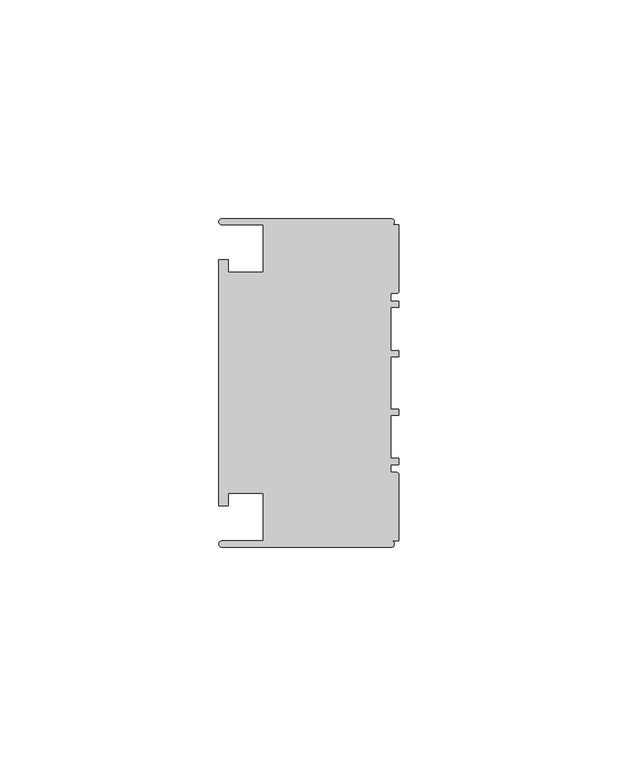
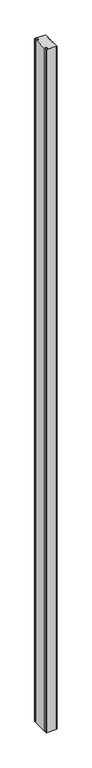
"""IFC4 building model written with IfcOpenShell, lengths in millimetres: member geometry, Прямоугольный импост : 3-AMG-2-Профиль 40Х75 Верх П."""

from ifc_helpers import new_model, si_unit, point, frame, frame_2d, origin, place, context, project, spatial, polyline, circle_curve, trimmed, segment, composite_curve, outline, extrude, source, transform, mapped, element, save


def member_35884c0a(model_context):
    return source(origin(), model_context, "Body", "SweptSolid", [
        extrude(outline(composite_curve([segment(polyline([(-1.7, -37.5), (-40.4, -37.5)]), True, "CONTINUOUS"), segment(trimmed(circle_curve(frame_2d((-40.4, -36.8)), 0.7), [point((-40.4, -37.5))], [point((-40.4, -36.1))], False, "CARTESIAN"), True, "CONTINUOUS"), segment(polyline([(-40.4, -36.1), (-31.0, -36.1), (-31.0, -25.25), (-39.0, -25.25), (-39.0, -28.1), (-41.1, -28.1), (-41.1, 28.1), (-39.0, 28.1), (-39.0, 25.25), (-31.0, 25.25), (-31.0, 36.1), (-40.4, 36.1)]), True, "CONTINUOUS"), segment(trimmed(circle_curve(frame_2d((-40.4, 36.8)), 0.7), [point((-40.4, 36.1))], [point((-40.4, 37.5))], False, "CARTESIAN"), True, "CONTINUOUS"), segment(polyline([(-40.4, 37.5), (-1.7, 37.5)]), True, "CONTINUOUS"), segment(trimmed(circle_curve(frame_2d((-1.7, 36.8)), 0.7), [point((-1.7, 37.5))], [point((-1.7, 36.1))], False, "CARTESIAN"), True, "CONTINUOUS"), segment(polyline([(-1.7, 36.1), (0.0, 36.1), (0.0, 20.95)]), True, "CONTINUOUS"), segment(trimmed(circle_curve(frame_2d((-0.5, 20.95)), 0.5), [point((0.0, 20.95))], [point((-0.5, 20.45))], False, "CARTESIAN"), True, "CONTINUOUS"), segment(polyline([(-0.5, 20.45), (-1.8, 20.45), (-1.8, 18.65), (0.0, 18.65), (0.0, 17.25), (-1.8, 17.25), (-1.8, 7.4), (0.0, 7.4), (0.0, 6.0), (-1.8, 6.0), (-1.8, -6.0), (0.0, -6.0), (0.0, -7.4), (-1.8, -7.4), (-1.8, -17.25), (0.0, -17.25), (0.0, -18.65), (-1.8, -18.65), (-1.8, -20.45), (-0.5, -20.45)]), True, "CONTINUOUS"), segment(trimmed(circle_curve(frame_2d((-0.5, -20.95)), 0.5), [point((-0.5, -20.45))], [point((0.0, -20.95))], False, "CARTESIAN"), True, "CONTINUOUS"), segment(polyline([(0.0, -20.95), (0.0, -36.1), (-1.7, -36.1)]), True, "CONTINUOUS"), segment(trimmed(circle_curve(frame_2d((-1.7, -36.8)), 0.7), [point((-1.7, -36.1))], [point((-1.7, -37.5))], False, "CARTESIAN"), True, "CONTINUOUS")], self_intersect=False)), frame((0.0, 0.0, -2717.8), z_axis=(0.0, 0.0, 1.0), x_axis=(1.0, 0.0, 0.0)), (0.0, 0.0, 1.0), 2717.8),
    ])


if __name__ == "__main__":
    model = new_model("IFC4")
    model_context = context("Model", 3, world=origin())
    ifc_project = project(units=[si_unit("LENGTHUNIT", "METRE", prefix="MILLI")], contexts=[model_context])
    site = spatial("IfcSite", under=ifc_project)
    building = spatial("IfcBuilding", under=site)
    placement = place(None, origin())
    member_shape = member_35884c0a(model_context)
    element("IfcMember", 1, ObjectType="Прямоугольный импост : 3-AMG-2-Профиль 40Х75 Верх П", at=placement, inside=building, context=model_context, shape_type="MappedRepresentation", body=[
        mapped(member_shape, transform((0.0, 0.0, 0.0), x_axis=(1.0, 0.0, 0.0), y_axis=(0.0, 1.0, 0.0), z_axis=(0.0, 0.0, 1.0))),
    ])
    save(model, "model.ifc")
